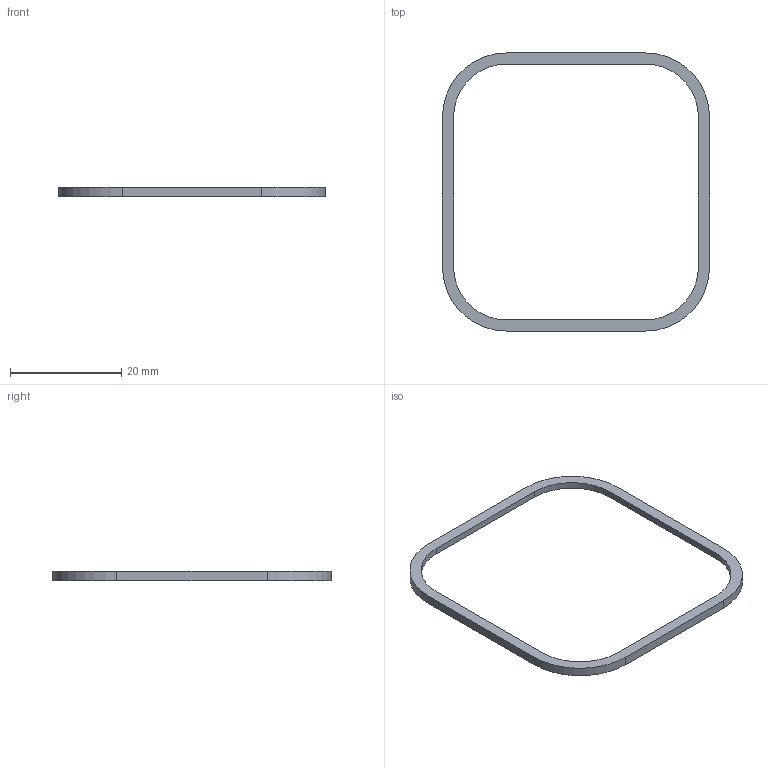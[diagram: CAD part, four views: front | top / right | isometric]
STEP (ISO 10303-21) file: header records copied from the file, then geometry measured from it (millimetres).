
FILE_DESCRIPTION(/* description */ (''),/* implementation_level */ '2;1');
FILE_NAME(/* name */ 'M04.step',/* time_stamp */ '2026-09-14T14:30:57-07:00',/* author */ (''),/* organization */ (''),/* preprocessor_version */ 'ST-DEVELOPER v20.1',/* originating_system */ 'Autodesk Translation Framework v15.8.0.0',/* authorisation */ '');
FILE_SCHEMA (('AUTOMOTIVE_DESIGN { 1 0 10303 214 3 1 1 }'));
Length unit declared in the file: millimetre
Products named in the file (1): 2026-09-14-14-30-56-993
Bounding box: 48 x 50 x 1.65 mm (x, y, z)
Volume: 508.7 mm3; surface area: 1242.8 mm2
Topology: 1 solids, 1 shells, 27 faces, 72 edges, 48 vertices
Faces by surface type: plane 15, cylinder 12
Entity records: 887 total; most frequent: DIRECTION 152, CARTESIAN_POINT 148, ORIENTED_EDGE 144, EDGE_CURVE 72, AXIS2_PLACEMENT_3D 52, LINE 48, VECTOR 48, VERTEX_POINT 48
